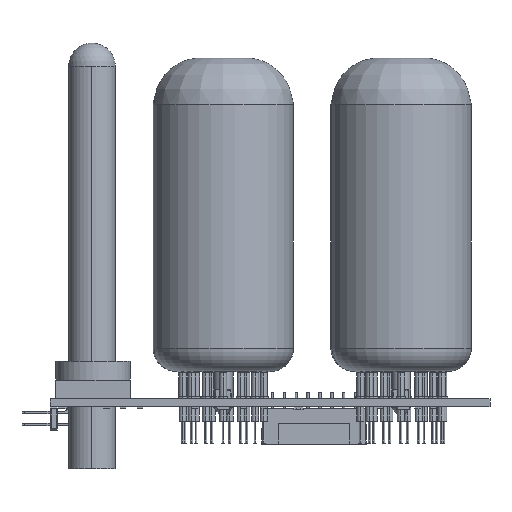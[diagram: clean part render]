
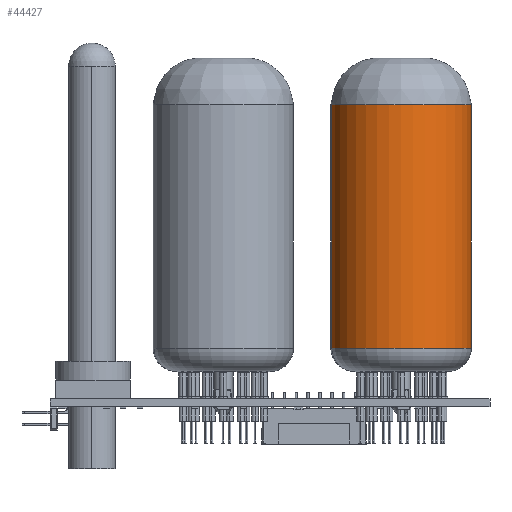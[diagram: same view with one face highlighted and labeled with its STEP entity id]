
A CAD part, front view. The second image highlights one B-rep face of the part: STEP entity #44427.
In plain terms, the highlighted cylindrical face has radius 15 mm (diameter 30 mm), a partial arc.
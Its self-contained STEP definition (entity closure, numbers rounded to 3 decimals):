
#44321 = VERTEX_POINT('',#44322);
#44322 = CARTESIAN_POINT('',(60.228,22.395,
    10.809));
#44330 = VERTEX_POINT('',#44331);
#44331 = CARTESIAN_POINT('',(89.772,27.605,
    10.809));
#44354 = VERTEX_POINT('',#44355);
#44355 = CARTESIAN_POINT('',(60.228,22.395,
    62.809));
#44356 = VERTEX_POINT('',#44357);
#44357 = CARTESIAN_POINT('',(89.772,27.605,
    62.809));
#44410 = EDGE_CURVE('',#44356,#44330,#44411,.T.);
#44411 = LINE('',#44412,#44413);
#44412 = CARTESIAN_POINT('',(89.772,27.605,
    72.809));
#44413 = VECTOR('',#44414,1.);
#44414 = DIRECTION('',(0.,0.,-1.));
#44417 = EDGE_CURVE('',#44354,#44321,#44418,.T.);
#44418 = LINE('',#44419,#44420);
#44419 = CARTESIAN_POINT('',(60.228,22.395,
    72.809));
#44420 = VECTOR('',#44421,1.);
#44421 = DIRECTION('',(0.,0.,-1.));
#44427 = ADVANCED_FACE('',(#44428),#44446,.T.);
#44428 = FACE_BOUND('',#44429,.T.);
#44429 = EDGE_LOOP('',(#44430,#44431,#44438,#44439));
#44430 = ORIENTED_EDGE('',*,*,#44410,.F.);
#44431 = ORIENTED_EDGE('',*,*,#44432,.T.);
#44432 = EDGE_CURVE('',#44356,#44354,#44433,.T.);
#44433 = CIRCLE('',#44434,15.);
#44434 = AXIS2_PLACEMENT_3D('',#44435,#44436,#44437);
#44435 = CARTESIAN_POINT('',(75.,25.,
    62.809));
#44436 = DIRECTION('',(0.,0.,-1.));
#44437 = DIRECTION('',(0.985,0.174,0.
    ));
#44438 = ORIENTED_EDGE('',*,*,#44417,.T.);
#44439 = ORIENTED_EDGE('',*,*,#44440,.T.);
#44440 = EDGE_CURVE('',#44321,#44330,#44441,.T.);
#44441 = CIRCLE('',#44442,15.);
#44442 = AXIS2_PLACEMENT_3D('',#44443,#44444,#44445);
#44443 = CARTESIAN_POINT('',(75.,25.,
    10.809));
#44444 = DIRECTION('',(0.,0.,1.));
#44445 = DIRECTION('',(0.985,0.174,0.
    ));
#44446 = CYLINDRICAL_SURFACE('',#44447,15.);
#44447 = AXIS2_PLACEMENT_3D('',#44448,#44449,#44450);
#44448 = CARTESIAN_POINT('',(75.,25.,
    72.809));
#44449 = DIRECTION('',(0.,0.,-1.));
#44450 = DIRECTION('',(-0.985,-0.174,
    0.));
